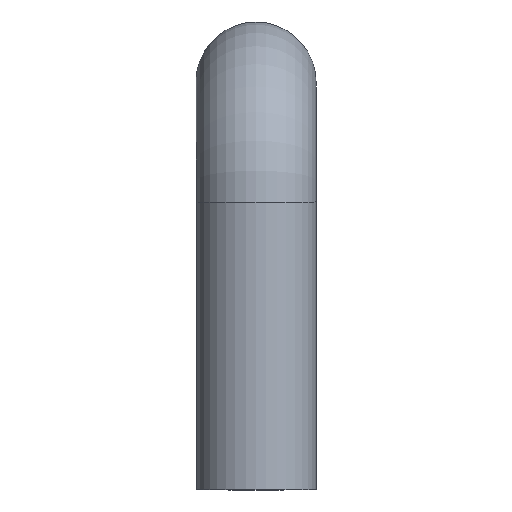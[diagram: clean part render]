
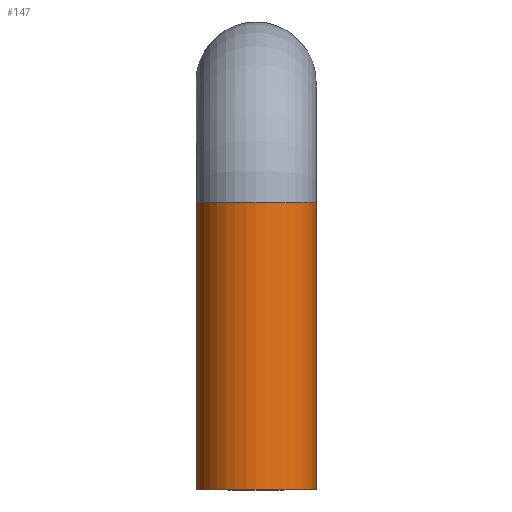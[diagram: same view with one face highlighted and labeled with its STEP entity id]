
A CAD part, front view. The second image highlights one B-rep face of the part: STEP entity #147.
In plain terms, the highlighted cylindrical face has radius 5 mm (diameter 10 mm), a full revolution.
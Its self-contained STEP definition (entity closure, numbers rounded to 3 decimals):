
#24=CYLINDRICAL_SURFACE('',#170,5.);
#33=FACE_BOUND('',#66,.T.);
#46=FACE_OUTER_BOUND('',#65,.T.);
#65=EDGE_LOOP('',(#125));
#66=EDGE_LOOP('',(#126));
#82=CIRCLE('',#169,5.);
#83=CIRCLE('',#171,5.);
#94=VERTEX_POINT('',#254);
#95=VERTEX_POINT('',#257);
#106=EDGE_CURVE('',#94,#94,#82,.T.);
#107=EDGE_CURVE('',#95,#95,#83,.T.);
#125=ORIENTED_EDGE('',*,*,#107,.T.);
#126=ORIENTED_EDGE('',*,*,#106,.F.);
#147=ADVANCED_FACE('',(#46,#33),#24,.T.);
#169=AXIS2_PLACEMENT_3D('',#255,#211,#212);
#170=AXIS2_PLACEMENT_3D('',#256,#213,#214);
#171=AXIS2_PLACEMENT_3D('',#258,#215,#216);
#211=DIRECTION('center_axis',(0.,0.,
-1.));
#212=DIRECTION('ref_axis',(1.,0.,0.));
#213=DIRECTION('center_axis',(0.,0.,
-1.));
#214=DIRECTION('ref_axis',(1.,0.,0.));
#215=DIRECTION('center_axis',(0.,0.,
-1.));
#216=DIRECTION('ref_axis',(1.,0.,0.));
#254=CARTESIAN_POINT('',(-5.,0.,1.5));
#255=CARTESIAN_POINT('Origin',(0.,0.,
1.5));
#256=CARTESIAN_POINT('Origin',(0.,0.,
25.5));
#257=CARTESIAN_POINT('',(0.,5.,25.5));
#258=CARTESIAN_POINT('Origin',(0.,0.,
25.5));
